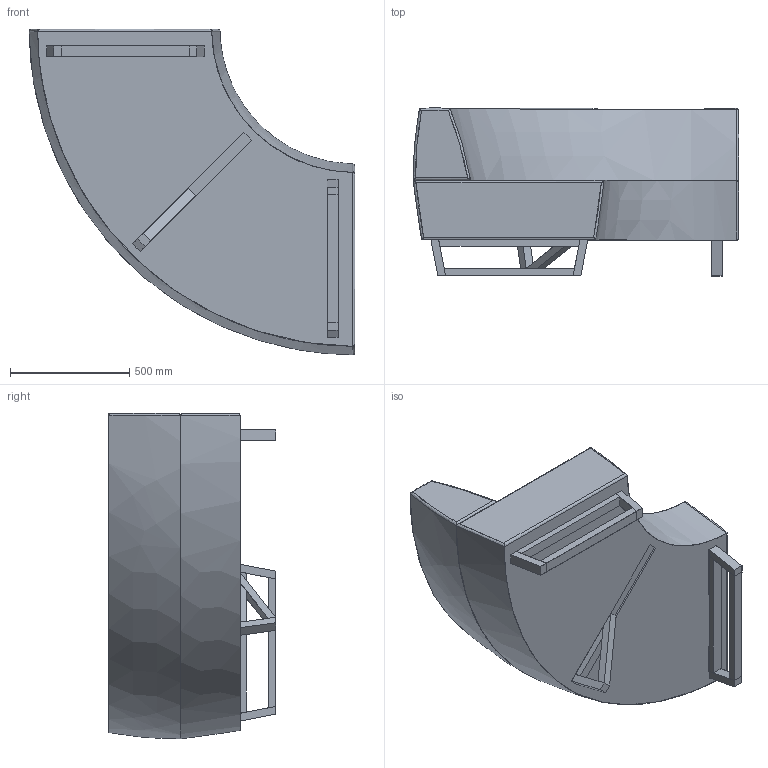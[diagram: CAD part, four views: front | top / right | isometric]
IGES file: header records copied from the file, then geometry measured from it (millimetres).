
Start section: SolidWorks IGES file using analytic representation for surfaces
Global section: file name: P:\3D CAD BLOCKS\us\90 DEGREE SEAT WITH LONG BACK\us - 90 DEGREE SEAT WITH LONG BACK.IGS; native system: SolidWorks 2012; preprocessor: SolidWorks 2012; author: adam; date: 140220.190726; units: millimetre
Bounding box: 1364.96 x 703.45 x 1364.96 mm (x, y, z)
Surface area: 6741128.9 mm2 (no closed solid volume)
Topology: 0 solids, 0 shells, 183 faces, 1561 edges, 1561 vertices
Faces by surface type: bspline 161, revolution 22
